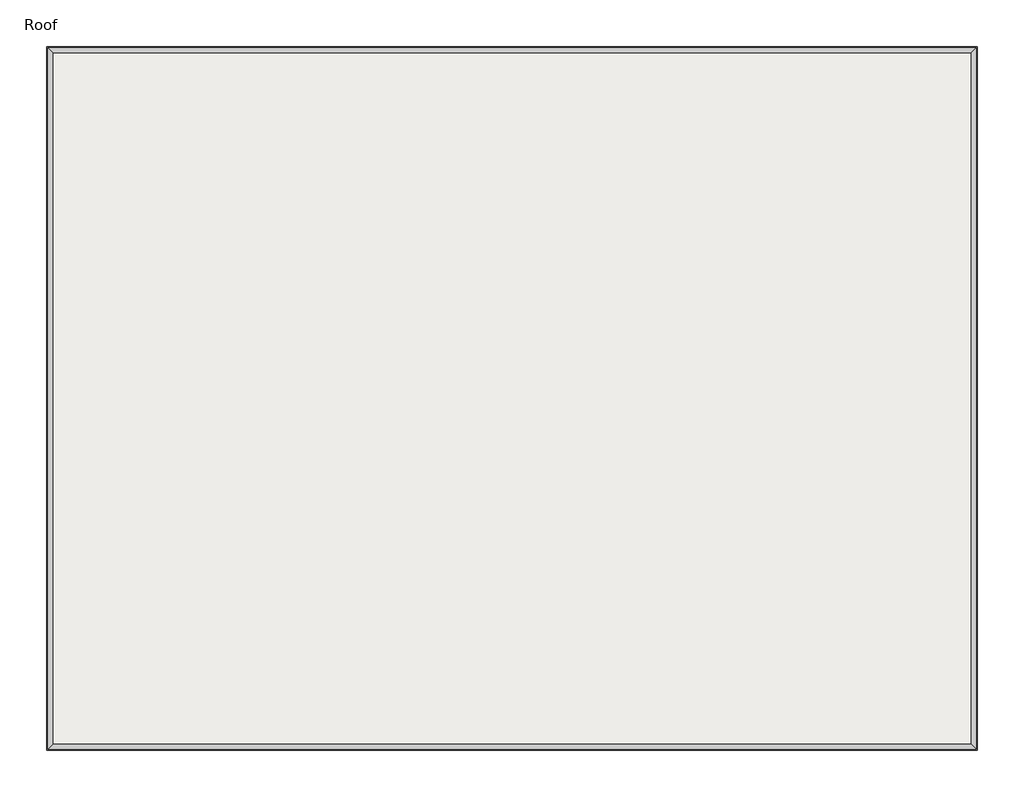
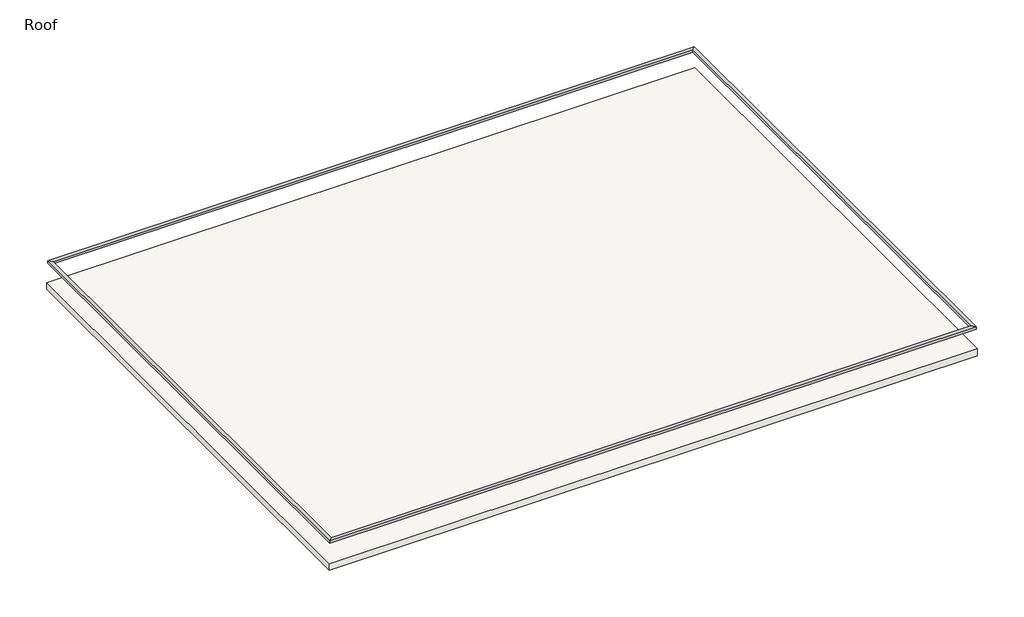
# One storey: 4 proxies, 1 slab.
"""IFC4 building model written with IfcOpenShell, lengths in millimetres."""

from ifc_helpers import new_model, si_unit, frame, origin, place, context, project, spatial, polyline, outline, extrude, element, save

model = new_model("IFC4")

# Units and contexts
model_context = context("Model", 3, world=origin())
ifc_project = project(units=[si_unit("LENGTHUNIT", "METRE", prefix="MILLI")], contexts=[model_context])

# Site, building, storey
site = spatial("IfcSite", under=ifc_project)
building = spatial("IfcBuilding", under=site)
storey = spatial("IfcBuildingStorey", under=building, Name="Roof", Elevation=10800.0)

# Proxies
placement = place(None, origin())
element("IfcBuildingElementProxy", 1, Name="Reveals", at=placement, inside=storey, context=model_context, shape_type="SweptSolid", body=[
    extrude(outline(polyline([(-17378.8100037, 5434.2363466), (-17481.3100037, 5536.7363466), (1223.6899963, 5536.7363466), (1121.1899963, 5434.2363466), (-17378.8100037, 5434.2363466)])), frame((0.0, 0.0, 11400.0), z_axis=(0.0, 0.0, 1.0), x_axis=(1.0, 0.0, 0.0)), (0.0, 0.0, 1.0), 75.0),
])
element("IfcBuildingElementProxy", 2, Name="Reveals", at=placement, inside=storey, context=model_context, shape_type="SweptSolid", body=[
    extrude(outline(polyline([(-17378.8100037, -8493.7636534), (-17481.3100037, -8596.2636534), (-17481.3100037, 5536.7363466), (-17378.8100037, 5434.2363466), (-17378.8100037, -8493.7636534)])), frame((0.0, 0.0, 11400.0), z_axis=(0.0, 0.0, 1.0), x_axis=(1.0, 0.0, 0.0)), (0.0, 0.0, 1.0), 75.0),
])
element("IfcBuildingElementProxy", 3, Name="Reveals", at=placement, inside=storey, context=model_context, shape_type="SweptSolid", body=[
    extrude(outline(polyline([(1121.1899963, -8493.7636534), (1223.6899963, -8596.2636534), (-17481.3100037, -8596.2636534), (-17378.8100037, -8493.7636534), (1121.1899963, -8493.7636534)])), frame((0.0, 0.0, 11400.0), z_axis=(0.0, 0.0, 1.0), x_axis=(1.0, 0.0, 0.0)), (0.0, 0.0, 1.0), 75.0),
])
element("IfcBuildingElementProxy", 4, Name="Reveals", at=placement, inside=storey, context=model_context, shape_type="SweptSolid", body=[
    extrude(outline(polyline([(1121.1899963, 5434.2363466), (1223.6899963, 5536.7363466), (1223.6899963, -8596.2636534), (1121.1899963, -8493.7636534), (1121.1899963, 5434.2363466)])), frame((0.0, 0.0, 11400.0), z_axis=(0.0, 0.0, 1.0), x_axis=(1.0, 0.0, 0.0)), (0.0, 0.0, 1.0), 75.0),
])

# Slab
element("IfcSlab", 5, ObjectType="160mm Concrete With 50mm Metal Deck", at=placement, inside=storey, context=model_context, shape_type="SweptSolid", body=[
    extrude(outline(polyline([(1245.1899963, 5558.2363466), (1245.1899963, -8617.7636534), (-17502.8100037, -8617.7636534), (-17502.8100037, 5558.2363466), (1245.1899963, 5558.2363466)])), frame((0.0, 0.0, 10590.0), z_axis=(0.0, 0.0, 1.0), x_axis=(1.0, 0.0, 0.0)), (0.0, 0.0, 1.0), 210.0),
])

save(model, "model.ifc")
